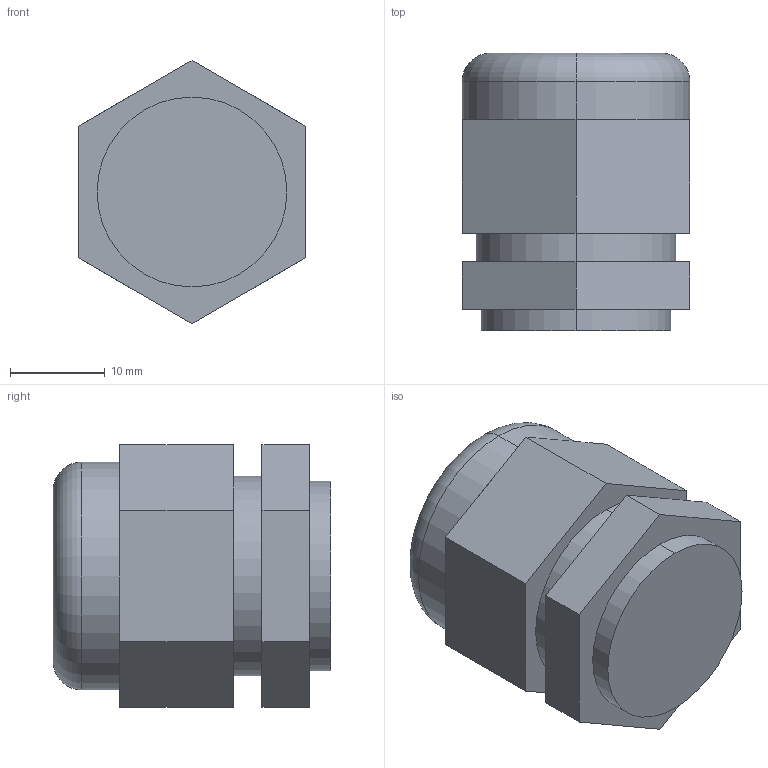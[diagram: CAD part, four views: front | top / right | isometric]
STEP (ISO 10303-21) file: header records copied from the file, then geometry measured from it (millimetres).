
FILE_DESCRIPTION (( 'STEP AP203' ), '1' );
FILE_NAME ('ZF_STEP_VF_PAM20CFN_A11.step', '2011-05-26T06:39:53', ( '' ), ( '' ), 'SwSTEP 2.0', 'SolidWorks 2010', '' );
FILE_SCHEMA (( 'CONFIG_CONTROL_DESIGN' ));
Length unit declared in the file: millimetre
Products named in the file (1): ZF_STEP_VF_PAM20CFN_A11
Bounding box: 24 x 29.25 x 27.71 mm (x, y, z)
Volume: 13148.5 mm3; surface area: 3607.6 mm2
Topology: 1 solids, 1 shells, 55 faces, 118 edges, 76 vertices
Faces by surface type: plane 31, cylinder 22, torus 2
Entity records: 1579 total; most frequent: DIRECTION 284, CARTESIAN_POINT 250, ORIENTED_EDGE 236, EDGE_CURVE 118, AXIS2_PLACEMENT_3D 110, VERTEX_POINT 76, EDGE_LOOP 66, LINE 64
